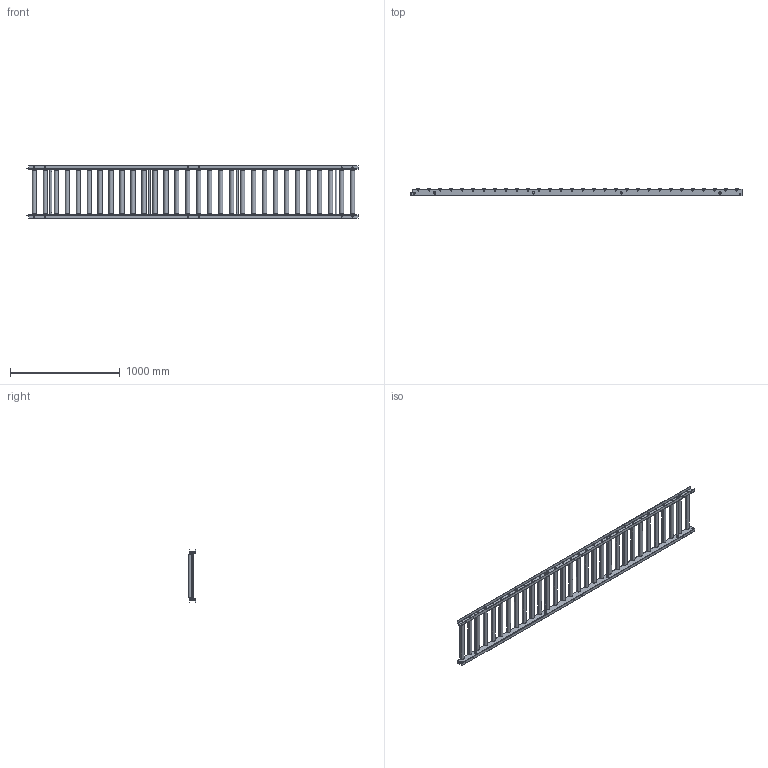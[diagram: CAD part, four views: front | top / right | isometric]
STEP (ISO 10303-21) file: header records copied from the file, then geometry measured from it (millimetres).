
FILE_DESCRIPTION (( 'STEP AP203' ), '1' );
FILE_NAME ('RS-3810-12.step', '2024-02-26T06:39:31', ( '' ), ( '' ), 'SwSTEP 2.0', 'SolidWorks 2023', '' );
FILE_SCHEMA (( 'CONFIG_CONTROL_DESIGN' ));
Length unit declared in the file: millimetre
Products named in the file (1): RS-3810-12
Bounding box: 3025 x 67.03 x 475 mm (x, y, z)
Volume: 15637452.7 mm3; surface area: 4039131.7 mm2
Topology: 84 solids, 84 shells, 1160 faces, 2572 edges, 1648 vertices
Faces by surface type: cylinder 562, plane 430, torus 120, cone 48
Entity records: 33311 total; most frequent: DIRECTION 6238, CARTESIAN_POINT 6053, ORIENTED_EDGE 5144, AXIS2_PLACEMENT_3D 2633, EDGE_CURVE 2572, VERTEX_POINT 1648, EDGE_LOOP 1472, CIRCLE 1472
